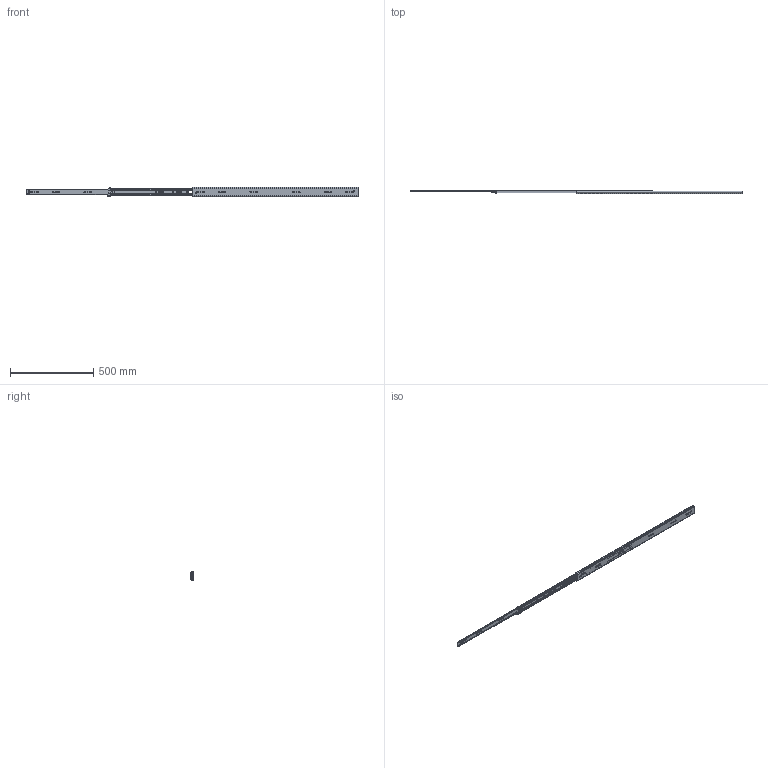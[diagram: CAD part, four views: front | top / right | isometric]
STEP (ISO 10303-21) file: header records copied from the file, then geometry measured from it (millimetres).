
FILE_DESCRIPTION((''),'2;1');
FILE_NAME('1057-C-40_ASM','2025-10-24T',('蔽翩'),(''),'CREO PARAMETRIC BY PTC INC, 2018220','CREO PARAMETRIC BY PTC INC, 2018220','');
FILE_SCHEMA(('CONFIG_CONTROL_DESIGN'));
Products named in the file (20): KP-57-01WEIKE-31__________; MAODING-WAI__________; 1057DAZHUJIA-20GE1__________; 1057ZHUJIADANWEIJIAO123______; 1057-5-6GANZHU1__________; 1057DAZHUJIA-20GE_12__ASM; 1057-C-20-KE___________ASM; KP-57-01ZHONGGUI-36__; PEIJIAN-22__________; ZHUANJIAO112__________; LIUJIAO-DING11__________; 1057-XIAOJIAOLUN40; PEIJIAN-ZHONG___________ASM; 1057XIAOZHUJIA___20___________; 1057XIAOZHUJIA-20GE____________ASM; KP-57-01ZHONGGUI-36___ASM; KP-57-01NEIGUI-241__________; XIN-JIAOGUAN40; KP-57-01NEIGUI-241___________ASM; 1057-C-40_ASM
Assembly tree (162 placements, depth 4):
  1057-C-40_ASM
    1057-C-20-KE___________ASM
      KP-57-01WEIKE-31__________
      MAODING-WAI__________  x2
      1057DAZHUJIA-20GE_12__ASM
        1057DAZHUJIA-20GE1__________
        1057ZHUJIADANWEIJIAO123______  x2
        1057-5-6GANZHU1__________  x68
    KP-57-01ZHONGGUI-36___ASM
      KP-57-01ZHONGGUI-36__
      PEIJIAN-ZHONG___________ASM  x2
        PEIJIAN-22__________
        ZHUANJIAO112__________
        LIUJIAO-DING11__________
        1057-XIAOJIAOLUN40
      MAODING-WAI__________  x2
      1057XIAOZHUJIA-20GE____________ASM
        1057XIAOZHUJIA___20___________
        1057-5-6GANZHU1__________  x68
        1057ZHUJIADANWEIJIAO123______  x2
    KP-57-01NEIGUI-241___________ASM
      KP-57-01NEIGUI-241__________
      XIN-JIAOGUAN40  x2
Bounding box: 2000 x 19.8 x 57.67 mm (x, y, z)
Volume: 428195.5 mm3; surface area: 497856.6 mm2
Topology: 159 solids, 159 shells, 4188 faces, 11658 edges, 7238 vertices
Faces by surface type: plane 1872, cylinder 1702, sphere 278, bspline 122, cone 110, torus 96, extrusion 8
Entity records: 120108 total; most frequent: CARTESIAN_POINT 25324, DIRECTION 20134, ORIENTED_EDGE 19670, EDGE_CURVE 9835, AXIS2_PLACEMENT_3D 6954, VERTEX_POINT 6335, VECTOR 6226, LINE 6222
